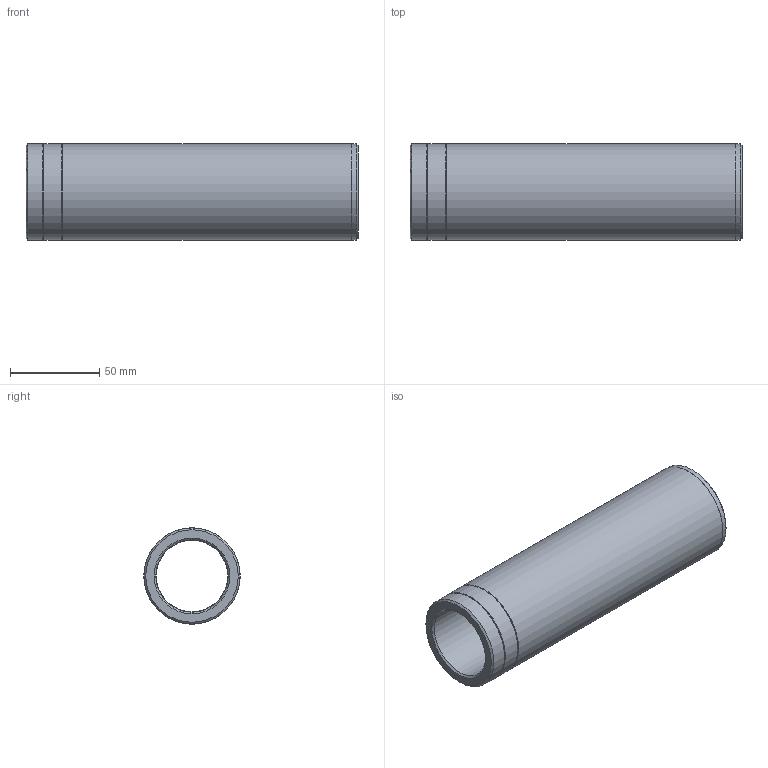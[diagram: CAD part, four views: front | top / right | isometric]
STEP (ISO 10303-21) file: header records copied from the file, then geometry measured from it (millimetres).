
FILE_DESCRIPTION(/* description */ ('Impex Ready, www.impex-ready.pl'),/* implementation_level */ '2;1');
FILE_NAME(/* name */ 'C:\Users\VIKKY\Nextcloud\SM\projekt 10 - części na stronę internetową\Pliki_3D_new\308 Tuleje BG06\308 BG06_STEP\BG06.040176.ipt.step',/* time_stamp */ '2021-12-21T17:36:23+01:00',/* author */ ('SM'),/* organization */ (''),/* preprocessor_version */ 'ST-DEVELOPER v18.1',/* originating_system */ 'Autodesk Inventor 2021',/* authorisation */ '');
FILE_SCHEMA (('AUTOMOTIVE_DESIGN { 1 0 10303 214 3 1 1 }'));
Length unit declared in the file: millimetre
Products named in the file (1): BG06.040176
Bounding box: 186 x 54 x 54 mm (x, y, z)
Volume: 188420.8 mm3; surface area: 57099.7 mm2
Topology: 1 solids, 1 shells, 20 faces, 36 edges, 24 vertices
Faces by surface type: plane 8, cylinder 8, cone 4
Full cylindrical faces by diameter (mm): 40 x1, 40.5 x1, 53 x2, 53.8 x2, 54 x2
Entity records: 605 total; most frequent: DIRECTION 102, CARTESIAN_POINT 81, ORIENTED_EDGE 72, AXIS2_PLACEMENT_3D 45, EDGE_CURVE 36, EDGE_LOOP 28, CIRCLE 24, VERTEX_POINT 24
